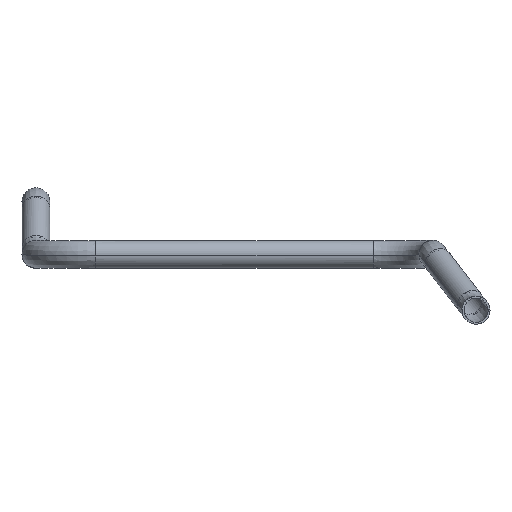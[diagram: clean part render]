
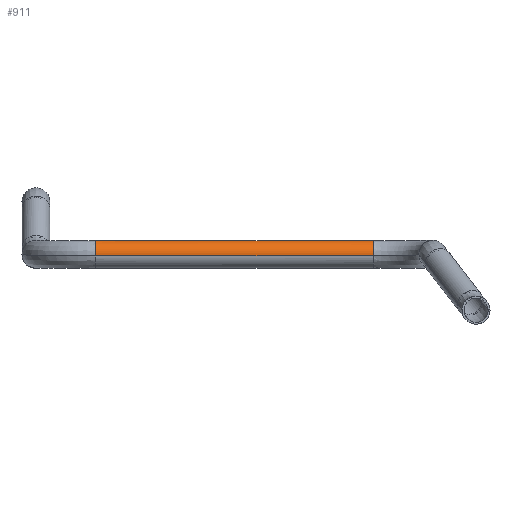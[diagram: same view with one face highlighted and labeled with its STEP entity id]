
A CAD part, front view. The second image highlights one B-rep face of the part: STEP entity #911.
In plain terms, the highlighted cylindrical face has radius 11 mm (diameter 22 mm), a partial arc.
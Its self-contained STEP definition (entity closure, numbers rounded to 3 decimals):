
#898=AXIS2_PLACEMENT_3D('Cylinder Axis2P3D',#895,#896,#897) ;
#902=AXIS2_PLACEMENT_3D('Circle Axis2P3D',#900,#901,$) ;
#315=CARTESIAN_POINT('Vertex',(394.,515.957,281.972)) ;
#317=CARTESIAN_POINT('Vertex',(394.,494.043,280.028)) ;
#358=CARTESIAN_POINT('Vertex',(613.,515.957,281.972)) ;
#360=CARTESIAN_POINT('Vertex',(613.,494.043,280.028)) ;
#363=CARTESIAN_POINT('Line Origine',(503.5,494.043,280.028)) ;
#368=CARTESIAN_POINT('Line Origine',(503.5,515.957,281.972)) ;
#882=CARTESIAN_POINT('Control Point',(394.,494.043,280.028)) ;
#883=CARTESIAN_POINT('Control Point',(394.,493.071,290.985)) ;
#884=CARTESIAN_POINT('Control Point',(394.,503.542,297.435)) ;
#885=CARTESIAN_POINT('Control Point',(394.,514.985,292.929)) ;
#886=CARTESIAN_POINT('Control Point',(394.,515.957,281.972)) ;
#895=CARTESIAN_POINT('Axis2P3D Location',(503.5,505.,281.)) ;
#900=CARTESIAN_POINT('Axis2P3D Location',(613.,505.,281.)) ;
#364=DIRECTION('Vector Direction',(-1.,0.,0.)) ;
#369=DIRECTION('Vector Direction',(-1.,0.,0.)) ;
#896=DIRECTION('Axis2P3D Direction',(-1.,0.,0.)) ;
#897=DIRECTION('Axis2P3D XDirection',(0.,-0.996,-0.088)) ;
#901=DIRECTION('Axis2P3D Direction',(-1.,0.,0.)) ;
#365=VECTOR('Line Direction',#364,1.) ;
#370=VECTOR('Line Direction',#369,1.) ;
#906=ORIENTED_EDGE('',*,*,#904,.T.) ;
#907=ORIENTED_EDGE('',*,*,#372,.F.) ;
#908=ORIENTED_EDGE('',*,*,#887,.F.) ;
#909=ORIENTED_EDGE('',*,*,#367,.T.) ;
#911=ADVANCED_FACE('( + ) PartBody',(#910),#899,.T.) ;
#903=CIRCLE('generated circle',#902,11.) ;
#899=CYLINDRICAL_SURFACE('generated cylinder',#898,11.) ;
#367=EDGE_CURVE('',#318,#361,#366,.F.) ;
#372=EDGE_CURVE('',#316,#359,#371,.F.) ;
#887=EDGE_CURVE('',#318,#316,#881,.T.) ;
#904=EDGE_CURVE('',#361,#359,#903,.T.) ;
#905=EDGE_LOOP('',(#906,#907,#908,#909)) ;
#910=FACE_OUTER_BOUND('',#905,.T.) ;
#366=LINE('Line',#363,#365) ;
#371=LINE('Line',#368,#370) ;
#316=VERTEX_POINT('',#315) ;
#318=VERTEX_POINT('',#317) ;
#359=VERTEX_POINT('',#358) ;
#361=VERTEX_POINT('',#360) ;
#881=(BOUNDED_CURVE()B_SPLINE_CURVE(4,(#882,#883,#884,#885,#886),.UNSPECIFIED.,.F.,.U.)B_SPLINE_CURVE_WITH_KNOTS((5,5),(-34.558,0.),.UNSPECIFIED.)CURVE()GEOMETRIC_REPRESENTATION_ITEM()RATIONAL_B_SPLINE_CURVE((1.,0.707,0.667,0.707,1.))REPRESENTATION_ITEM('')) ;
